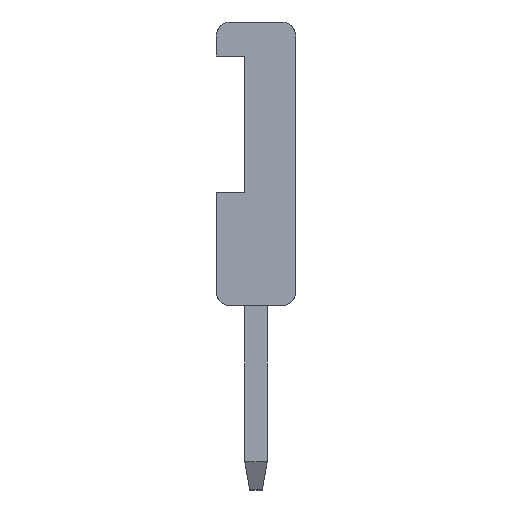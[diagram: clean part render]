
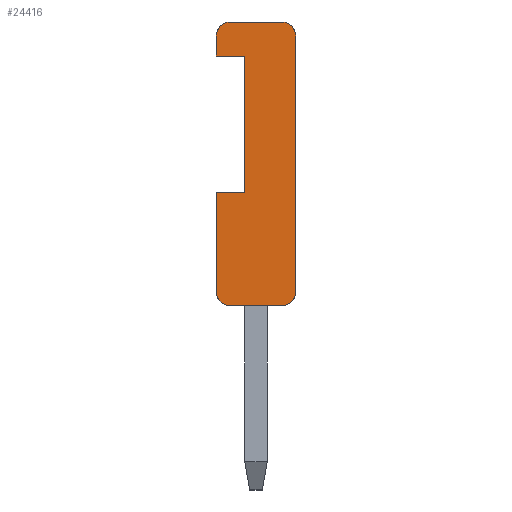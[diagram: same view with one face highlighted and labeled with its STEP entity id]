
A CAD part, left-side view. The second image highlights one B-rep face of the part: STEP entity #24416.
In plain terms, the highlighted planar face has unit normal (-1, 0, 0).
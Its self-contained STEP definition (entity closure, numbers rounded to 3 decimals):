
#488=CIRCLE('',#25203,0.5);
#490=CIRCLE('',#25308,0.5);
#491=CIRCLE('',#25410,0.5);
#494=CIRCLE('',#25518,0.5);
#2564=FACE_OUTER_BOUND('',#3930,.T.);
#3930=EDGE_LOOP('',(#20912,#20913,#20914,#20915,#20916,#20917,#20918,#20919,
#20920,#20921,#20922,#20923));
#5407=LINE('',#38469,#8101);
#6266=LINE('',#40857,#8960);
#6563=LINE('',#41395,#9257);
#6564=LINE('',#41397,#9258);
#6565=LINE('',#41398,#9259);
#6566=LINE('',#41400,#9260);
#6567=LINE('',#41401,#9261);
#6568=LINE('',#41402,#9262);
#8101=VECTOR('',#27994,10.);
#8960=VECTOR('',#30061,10.);
#9257=VECTOR('',#30492,10.);
#9258=VECTOR('',#30493,10.);
#9259=VECTOR('',#30494,10.);
#9260=VECTOR('',#30495,10.);
#9261=VECTOR('',#30496,10.);
#9262=VECTOR('',#30497,10.);
#10767=VERTEX_POINT('',#38466);
#10768=VERTEX_POINT('',#38468);
#10975=VERTEX_POINT('',#39081);
#10976=VERTEX_POINT('',#39083);
#11115=VERTEX_POINT('',#39396);
#11116=VERTEX_POINT('',#39398);
#11251=VERTEX_POINT('',#39702);
#11252=VERTEX_POINT('',#39704);
#11395=VERTEX_POINT('',#40026);
#11396=VERTEX_POINT('',#40028);
#11868=VERTEX_POINT('',#41396);
#11869=VERTEX_POINT('',#41399);
#13691=EDGE_CURVE('',#10768,#10767,#5407,.T.);
#13979=EDGE_CURVE('',#10976,#10975,#488,.T.);
#14119=EDGE_CURVE('',#11116,#11115,#490,.T.);
#14255=EDGE_CURVE('',#11252,#11251,#491,.T.);
#14399=EDGE_CURVE('',#11396,#11395,#494,.T.);
#14830=EDGE_CURVE('',#11251,#11116,#6266,.T.);
#15127=EDGE_CURVE('',#11396,#10975,#6563,.T.);
#15128=EDGE_CURVE('',#11868,#11395,#6564,.T.);
#15129=EDGE_CURVE('',#11868,#10768,#6565,.T.);
#15130=EDGE_CURVE('',#10767,#11869,#6566,.T.);
#15131=EDGE_CURVE('',#11252,#11869,#6567,.T.);
#15132=EDGE_CURVE('',#11115,#10976,#6568,.T.);
#20912=ORIENTED_EDGE('',*,*,#13979,.T.);
#20913=ORIENTED_EDGE('',*,*,#15127,.F.);
#20914=ORIENTED_EDGE('',*,*,#14399,.T.);
#20915=ORIENTED_EDGE('',*,*,#15128,.F.);
#20916=ORIENTED_EDGE('',*,*,#15129,.T.);
#20917=ORIENTED_EDGE('',*,*,#13691,.T.);
#20918=ORIENTED_EDGE('',*,*,#15130,.T.);
#20919=ORIENTED_EDGE('',*,*,#15131,.F.);
#20920=ORIENTED_EDGE('',*,*,#14255,.T.);
#20921=ORIENTED_EDGE('',*,*,#14830,.T.);
#20922=ORIENTED_EDGE('',*,*,#14119,.T.);
#20923=ORIENTED_EDGE('',*,*,#15132,.T.);
#23129=PLANE('',#25751);
#24416=ADVANCED_FACE('',(#2564),#23129,.T.);
#25203=AXIS2_PLACEMENT_3D('',#39084,#28523,#28524);
#25308=AXIS2_PLACEMENT_3D('',#39399,#28803,#28804);
#25410=AXIS2_PLACEMENT_3D('',#39705,#29075,#29076);
#25518=AXIS2_PLACEMENT_3D('',#40029,#29363,#29364);
#25751=AXIS2_PLACEMENT_3D('',#41394,#30490,#30491);
#27994=DIRECTION('',(0.,0.,-1.));
#28523=DIRECTION('center_axis',(-1.,0.,0.));
#28524=DIRECTION('ref_axis',(0.,-1.,0.));
#28803=DIRECTION('center_axis',(-1.,0.,0.));
#28804=DIRECTION('ref_axis',(0.,0.,1.));
#29075=DIRECTION('center_axis',(-1.,0.,0.));
#29076=DIRECTION('ref_axis',(0.,1.,0.));
#29363=DIRECTION('center_axis',(-1.,0.,0.));
#29364=DIRECTION('ref_axis',(0.,0.,-1.));
#30061=DIRECTION('',(0.,-1.,0.));
#30490=DIRECTION('center_axis',(-1.,0.,0.));
#30491=DIRECTION('ref_axis',(0.,-1.,0.));
#30492=DIRECTION('',(0.,-1.,0.));
#30493=DIRECTION('',(0.,0.,1.));
#30494=DIRECTION('',(0.,-1.,0.));
#30495=DIRECTION('',(0.,1.,0.));
#30496=DIRECTION('',(0.,0.,1.));
#30497=DIRECTION('',(0.,0.,1.));
#38466=CARTESIAN_POINT('',(0.,1.8,4.));
#38468=CARTESIAN_POINT('',(0.,1.8,8.8));
#38469=CARTESIAN_POINT('',(0.,1.8,4.4));
#39081=CARTESIAN_POINT('',(0.,0.5,10.));
#39083=CARTESIAN_POINT('',(0.,0.,9.5));
#39084=CARTESIAN_POINT('Origin',(0.,0.5,9.5));
#39396=CARTESIAN_POINT('',(0.,0.,0.5));
#39398=CARTESIAN_POINT('',(0.,0.5,0.));
#39399=CARTESIAN_POINT('Origin',(0.,0.5,0.5));
#39702=CARTESIAN_POINT('',(0.,2.3,0.));
#39704=CARTESIAN_POINT('',(0.,2.8,0.5));
#39705=CARTESIAN_POINT('Origin',(0.,2.3,
0.5));
#40026=CARTESIAN_POINT('',(0.,2.8,9.5));
#40028=CARTESIAN_POINT('',(0.,2.3,10.));
#40029=CARTESIAN_POINT('Origin',(0.,2.3,
9.5));
#40857=CARTESIAN_POINT('',(0.,2.8,0.));
#41394=CARTESIAN_POINT('Origin',(0.,2.8,
0.));
#41395=CARTESIAN_POINT('',(0.,2.8,10.));
#41396=CARTESIAN_POINT('',(0.,2.8,8.8));
#41397=CARTESIAN_POINT('',(0.,2.8,0.));
#41398=CARTESIAN_POINT('',(0.,2.8,8.8));
#41399=CARTESIAN_POINT('',(0.,2.8,4.));
#41400=CARTESIAN_POINT('',(0.,2.3,4.));
#41401=CARTESIAN_POINT('',(0.,2.8,0.));
#41402=CARTESIAN_POINT('',(0.,0.,0.));
